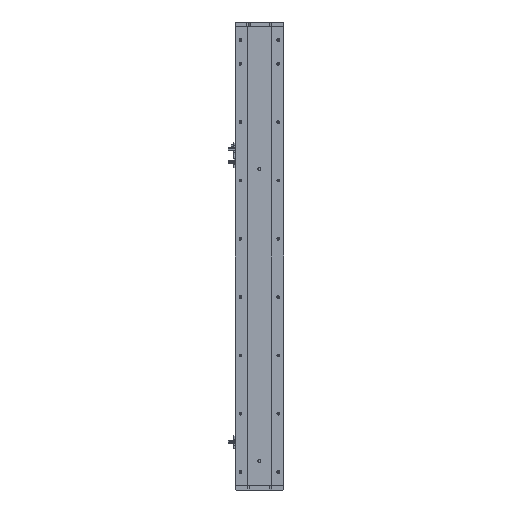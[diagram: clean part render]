
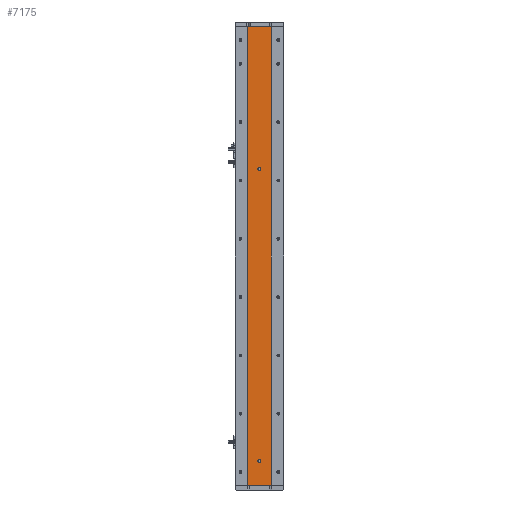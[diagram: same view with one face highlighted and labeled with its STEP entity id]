
A CAD part, left-side view. The second image highlights one B-rep face of the part: STEP entity #7175.
In plain terms, the highlighted planar face has unit normal (-1, 0, 0).
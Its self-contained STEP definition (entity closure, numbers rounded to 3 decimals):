
#1971 = DIRECTION ( 'NONE',  ( 0., -1., 0. ) ) ;
#2002 = FACE_BOUND ( 'NONE', #10881, .T. ) ;
#2434 = CARTESIAN_POINT ( 'NONE',  ( -18.926, 0., 647. ) ) ;
#2961 = FACE_BOUND ( 'NONE', #26233, .T. ) ;
#3743 = PLANE ( 'NONE',  #6980 ) ;
#3746 = LINE ( 'NONE', #18961, #20132 ) ;
#3992 = DIRECTION ( 'NONE',  ( 1., 0., 0. ) ) ;
#4883 = CARTESIAN_POINT ( 'NONE',  ( -18.926, 0., 650. ) ) ;
#5599 = VERTEX_POINT ( 'NONE', #38440 ) ;
#5930 = ORIENTED_EDGE ( 'NONE', *, *, #31601, .F. ) ;
#6457 = ORIENTED_EDGE ( 'NONE', *, *, #7863, .F. ) ;
#6584 = VERTEX_POINT ( 'NONE', #2434 ) ;
#6980 = AXIS2_PLACEMENT_3D ( 'NONE', #22434, #3992, #25562 ) ;
#7175 = ADVANCED_FACE ( 'NONE', ( #2002, #2961, #18407 ), #3743, .F. ) ;
#7732 = CARTESIAN_POINT ( 'NONE',  ( -18.926, -24.785, 943. ) ) ;
#7863 = EDGE_CURVE ( 'NONE', #24828, #6584, #11022, .T. ) ;
#7966 = DIRECTION ( 'NONE',  ( 0., 0., 1. ) ) ;
#8010 = VECTOR ( 'NONE', #1971, 1000. ) ;
#8390 = EDGE_CURVE ( 'NONE', #6584, #24828, #34531, .T. ) ;
#8721 = AXIS2_PLACEMENT_3D ( 'NONE', #29070, #10626, #32174 ) ;
#8738 = CARTESIAN_POINT ( 'NONE',  ( -18.926, 24.785, 943. ) ) ;
#9331 = ORIENTED_EDGE ( 'NONE', *, *, #33869, .T. ) ;
#10576 = DIRECTION ( 'NONE',  ( -1., 0., 0. ) ) ;
#10626 = DIRECTION ( 'NONE',  ( -1., 0., 0. ) ) ;
#10881 = EDGE_LOOP ( 'NONE', ( #6457, #23233 ) ) ;
#11022 = CIRCLE ( 'NONE', #29457, 3. ) ;
#14493 = DIRECTION ( 'NONE',  ( -1., 0., 0. ) ) ;
#15183 = ORIENTED_EDGE ( 'NONE', *, *, #19801, .F. ) ;
#15502 = CARTESIAN_POINT ( 'NONE',  ( -18.926, 0., 653. ) ) ;
#15573 = VERTEX_POINT ( 'NONE', #35739 ) ;
#16105 = ORIENTED_EDGE ( 'NONE', *, *, #29349, .T. ) ;
#16402 = LINE ( 'NONE', #7732, #38994 ) ;
#16502 = VERTEX_POINT ( 'NONE', #8738 ) ;
#17187 = LINE ( 'NONE', #17329, #8010 ) ;
#17329 = CARTESIAN_POINT ( 'NONE',  ( -18.926, 24.785, 0. ) ) ;
#18407 = FACE_OUTER_BOUND ( 'NONE', #38756, .T. ) ;
#18520 = VERTEX_POINT ( 'NONE', #31219 ) ;
#18961 = CARTESIAN_POINT ( 'NONE',  ( -18.926, 24.785, 943. ) ) ;
#19461 = AXIS2_PLACEMENT_3D ( 'NONE', #4883, #26436, #7966 ) ;
#19573 = CIRCLE ( 'NONE', #33951, 3. ) ;
#19719 = CARTESIAN_POINT ( 'NONE',  ( -18.926, 24.785, 943. ) ) ;
#19801 = EDGE_CURVE ( 'NONE', #36359, #18520, #19573, .T. ) ;
#20132 = VECTOR ( 'NONE', #21894, 1000. ) ;
#21894 = DIRECTION ( 'NONE',  ( 0., -1., 0. ) ) ;
#22243 = VECTOR ( 'NONE', #22777, 1000. ) ;
#22434 = CARTESIAN_POINT ( 'NONE',  ( -18.926, 24.785, 943. ) ) ;
#22619 = ORIENTED_EDGE ( 'NONE', *, *, #26040, .F. ) ;
#22777 = DIRECTION ( 'NONE',  ( 0., 0., -1. ) ) ;
#23233 = ORIENTED_EDGE ( 'NONE', *, *, #8390, .F. ) ;
#24828 = VERTEX_POINT ( 'NONE', #15502 ) ;
#25562 = DIRECTION ( 'NONE',  ( 0., 0., -1. ) ) ;
#26040 = EDGE_CURVE ( 'NONE', #16502, #5599, #3746, .T. ) ;
#26233 = EDGE_LOOP ( 'NONE', ( #15183, #5930 ) ) ;
#26436 = DIRECTION ( 'NONE',  ( -1., 0., 0. ) ) ;
#27584 = EDGE_CURVE ( 'NONE', #5599, #15573, #16402, .T. ) ;
#29025 = CARTESIAN_POINT ( 'NONE',  ( -18.926, 0., 50. ) ) ;
#29070 = CARTESIAN_POINT ( 'NONE',  ( -18.926, 0., 50. ) ) ;
#29349 = EDGE_CURVE ( 'NONE', #33926, #15573, #17187, .T. ) ;
#29457 = AXIS2_PLACEMENT_3D ( 'NONE', #32918, #14493, #35984 ) ;
#30726 = CIRCLE ( 'NONE', #8721, 3. ) ;
#31219 = CARTESIAN_POINT ( 'NONE',  ( -18.926, 0., 47. ) ) ;
#31601 = EDGE_CURVE ( 'NONE', #18520, #36359, #30726, .T. ) ;
#32119 = DIRECTION ( 'NONE',  ( 0., 0., 1. ) ) ;
#32174 = DIRECTION ( 'NONE',  ( 0., 0., 1. ) ) ;
#32918 = CARTESIAN_POINT ( 'NONE',  ( -18.926, 0., 650. ) ) ;
#33869 = EDGE_CURVE ( 'NONE', #16502, #33926, #38600, .T. ) ;
#33926 = VERTEX_POINT ( 'NONE', #38523 ) ;
#33951 = AXIS2_PLACEMENT_3D ( 'NONE', #29025, #10576, #32119 ) ;
#34106 = ORIENTED_EDGE ( 'NONE', *, *, #27584, .F. ) ;
#34531 = CIRCLE ( 'NONE', #19461, 3. ) ;
#35739 = CARTESIAN_POINT ( 'NONE',  ( -18.926, -24.785, 0. ) ) ;
#35984 = DIRECTION ( 'NONE',  ( 0., 0., 1. ) ) ;
#36359 = VERTEX_POINT ( 'NONE', #36940 ) ;
#36940 = CARTESIAN_POINT ( 'NONE',  ( -18.926, 0., 53. ) ) ;
#38420 = DIRECTION ( 'NONE',  ( 0., 0., -1. ) ) ;
#38440 = CARTESIAN_POINT ( 'NONE',  ( -18.926, -24.785, 943. ) ) ;
#38523 = CARTESIAN_POINT ( 'NONE',  ( -18.926, 24.785, 0. ) ) ;
#38600 = LINE ( 'NONE', #19719, #22243 ) ;
#38756 = EDGE_LOOP ( 'NONE', ( #16105, #34106, #22619, #9331 ) ) ;
#38994 = VECTOR ( 'NONE', #38420, 1000. ) ;
